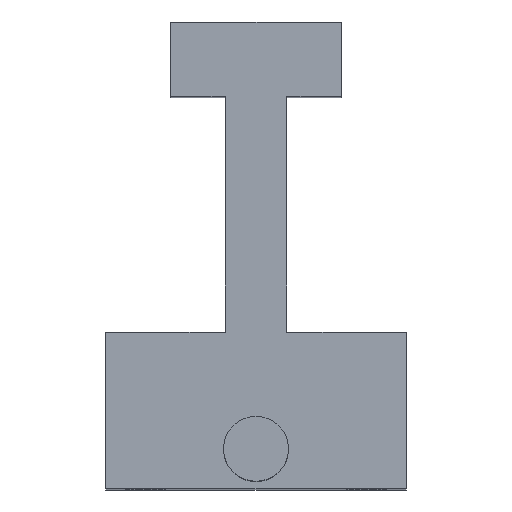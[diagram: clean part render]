
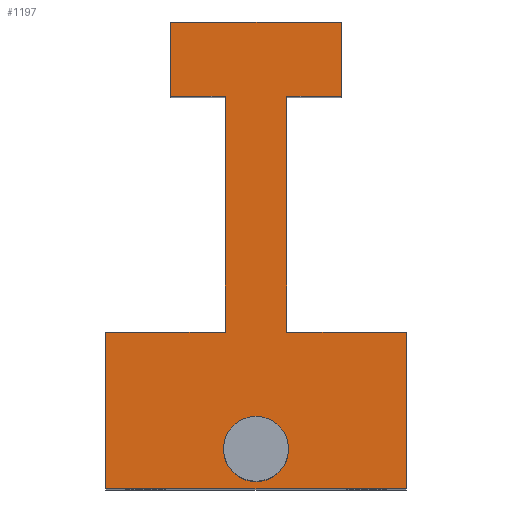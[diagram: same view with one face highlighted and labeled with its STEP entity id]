
A CAD part, top view. The second image highlights one B-rep face of the part: STEP entity #1197.
In plain terms, the highlighted planar face has unit normal (0, 0, 1).
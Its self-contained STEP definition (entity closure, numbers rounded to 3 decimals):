
#12 = VERTEX_POINT ( 'NONE', #1232 ) ;
#20 = DIRECTION ( 'NONE',  ( 1., 0., 0. ) ) ;
#42 = EDGE_CURVE ( 'NONE', #1415, #1386, #320, .T. ) ;
#45 = DIRECTION ( 'NONE',  ( -1., 0., 0. ) ) ;
#87 = LINE ( 'NONE', #692, #650 ) ;
#88 = ORIENTED_EDGE ( 'NONE', *, *, #222, .T. ) ;
#89 = CARTESIAN_POINT ( 'NONE',  ( 9.5, -14.75, 43. ) ) ;
#121 = DIRECTION ( 'NONE',  ( 0., -1., 0. ) ) ;
#143 = EDGE_CURVE ( 'NONE', #161, #227, #174, .T. ) ;
#144 = DIRECTION ( 'NONE',  ( 0., -1., 0. ) ) ;
#150 = CARTESIAN_POINT ( 'NONE',  ( 9.5, -14.75, 43. ) ) ;
#152 = LINE ( 'NONE', #906, #1346 ) ;
#155 = LINE ( 'NONE', #969, #440 ) ;
#161 = VERTEX_POINT ( 'NONE', #1341 ) ;
#163 = VERTEX_POINT ( 'NONE', #1099 ) ;
#174 = CIRCLE ( 'NONE', #1641, 2.05 ) ;
#196 = DIRECTION ( 'NONE',  ( 0., 0., -1. ) ) ;
#204 = LINE ( 'NONE', #89, #1504 ) ;
#213 = EDGE_CURVE ( 'NONE', #1445, #702, #688, .T. ) ;
#222 = EDGE_CURVE ( 'NONE', #12, #1358, #155, .T. ) ;
#227 = VERTEX_POINT ( 'NONE', #1462 ) ;
#229 = DIRECTION ( 'NONE',  ( 1., 0., 0. ) ) ;
#251 = EDGE_CURVE ( 'NONE', #227, #161, #1052, .T. ) ;
#259 = CARTESIAN_POINT ( 'NONE',  ( -1.95, 10.05, 43. ) ) ;
#282 = VECTOR ( 'NONE', #290, 1000. ) ;
#290 = DIRECTION ( 'NONE',  ( 0., 1., 0. ) ) ;
#301 = EDGE_LOOP ( 'NONE', ( #535, #1178 ) ) ;
#320 = LINE ( 'NONE', #886, #1083 ) ;
#326 = CARTESIAN_POINT ( 'NONE',  ( 1.95, -4.85, 43. ) ) ;
#340 = CARTESIAN_POINT ( 'NONE',  ( 0., -12.25, 43. ) ) ;
#344 = ORIENTED_EDGE ( 'NONE', *, *, #1433, .T. ) ;
#364 = CARTESIAN_POINT ( 'NONE',  ( -5.4, 14.75, 43. ) ) ;
#373 = DIRECTION ( 'NONE',  ( -1., 0., 0. ) ) ;
#404 = CARTESIAN_POINT ( 'NONE',  ( -5.4, 10.05, 43. ) ) ;
#440 = VECTOR ( 'NONE', #847, 1000. ) ;
#463 = DIRECTION ( 'NONE',  ( 0., 0., 1. ) ) ;
#473 = LINE ( 'NONE', #1486, #819 ) ;
#484 = CARTESIAN_POINT ( 'NONE',  ( -9.5, -4.85, 43. ) ) ;
#535 = ORIENTED_EDGE ( 'NONE', *, *, #251, .F. ) ;
#571 = PLANE ( 'NONE',  #1141 ) ;
#610 = VECTOR ( 'NONE', #20, 1000. ) ;
#617 = VECTOR ( 'NONE', #1540, 1000. ) ;
#623 = EDGE_CURVE ( 'NONE', #771, #163, #1249, .T. ) ;
#629 = FACE_BOUND ( 'NONE', #301, .T. ) ;
#646 = ORIENTED_EDGE ( 'NONE', *, *, #854, .T. ) ;
#650 = VECTOR ( 'NONE', #45, 1000. ) ;
#677 = VERTEX_POINT ( 'NONE', #150 ) ;
#688 = LINE ( 'NONE', #1410, #610 ) ;
#692 = CARTESIAN_POINT ( 'NONE',  ( -5.4, 14.75, 43. ) ) ;
#693 = ORIENTED_EDGE ( 'NONE', *, *, #1016, .T. ) ;
#695 = CARTESIAN_POINT ( 'NONE',  ( 1.95, 10.05, 43. ) ) ;
#702 = VERTEX_POINT ( 'NONE', #1280 ) ;
#715 = EDGE_CURVE ( 'NONE', #702, #866, #939, .T. ) ;
#732 = VECTOR ( 'NONE', #373, 1000. ) ;
#738 = DIRECTION ( 'NONE',  ( -1., 0., 0. ) ) ;
#771 = VERTEX_POINT ( 'NONE', #364 ) ;
#808 = EDGE_LOOP ( 'NONE', ( #1422, #1059, #1311, #693, #1065, #1090, #344, #88, #646, #1448, #1183, #1259 ) ) ;
#809 = VECTOR ( 'NONE', #1363, 1000. ) ;
#819 = VECTOR ( 'NONE', #885, 1000. ) ;
#847 = DIRECTION ( 'NONE',  ( -1., 0., 0. ) ) ;
#854 = EDGE_CURVE ( 'NONE', #1358, #1445, #1087, .T. ) ;
#866 = VERTEX_POINT ( 'NONE', #1524 ) ;
#885 = DIRECTION ( 'NONE',  ( 0., 1., 0. ) ) ;
#886 = CARTESIAN_POINT ( 'NONE',  ( -9.5, -14.75, 43. ) ) ;
#891 = CARTESIAN_POINT ( 'NONE',  ( -1.95, 10.05, 43. ) ) ;
#898 = CARTESIAN_POINT ( 'NONE',  ( -1.95, -4.85, 43. ) ) ;
#906 = CARTESIAN_POINT ( 'NONE',  ( -1.95, -4.85, 43. ) ) ;
#939 = LINE ( 'NONE', #1545, #282 ) ;
#958 = CARTESIAN_POINT ( 'NONE',  ( 0., 0., 43. ) ) ;
#969 = CARTESIAN_POINT ( 'NONE',  ( 1.95, -4.85, 43. ) ) ;
#1016 = EDGE_CURVE ( 'NONE', #1587, #1415, #1323, .T. ) ;
#1035 = CARTESIAN_POINT ( 'NONE',  ( 1.95, 10.05, 43. ) ) ;
#1052 = CIRCLE ( 'NONE', #1056, 2.05 ) ;
#1056 = AXIS2_PLACEMENT_3D ( 'NONE', #1592, #1596, #1095 ) ;
#1059 = ORIENTED_EDGE ( 'NONE', *, *, #1609, .T. ) ;
#1065 = ORIENTED_EDGE ( 'NONE', *, *, #42, .T. ) ;
#1071 = DIRECTION ( 'NONE',  ( -1., 0., 0. ) ) ;
#1075 = EDGE_CURVE ( 'NONE', #1404, #1587, #152, .T. ) ;
#1083 = VECTOR ( 'NONE', #121, 1000. ) ;
#1087 = LINE ( 'NONE', #1035, #1206 ) ;
#1090 = ORIENTED_EDGE ( 'NONE', *, *, #1297, .T. ) ;
#1095 = DIRECTION ( 'NONE',  ( -1., 0., 0. ) ) ;
#1099 = CARTESIAN_POINT ( 'NONE',  ( -5.4, 10.05, 43. ) ) ;
#1128 = CARTESIAN_POINT ( 'NONE',  ( -9.5, -4.85, 43. ) ) ;
#1141 = AXIS2_PLACEMENT_3D ( 'NONE', #958, #196, #1071 ) ;
#1178 = ORIENTED_EDGE ( 'NONE', *, *, #143, .F. ) ;
#1180 = DIRECTION ( 'NONE',  ( 0., 1., 0. ) ) ;
#1182 = EDGE_CURVE ( 'NONE', #866, #771, #87, .T. ) ;
#1183 = ORIENTED_EDGE ( 'NONE', *, *, #715, .T. ) ;
#1197 = ADVANCED_FACE ( 'NONE', ( #629, #1461 ), #571, .F. ) ;
#1206 = VECTOR ( 'NONE', #1180, 1000. ) ;
#1232 = CARTESIAN_POINT ( 'NONE',  ( 9.5, -4.85, 43. ) ) ;
#1249 = LINE ( 'NONE', #404, #617 ) ;
#1259 = ORIENTED_EDGE ( 'NONE', *, *, #1182, .T. ) ;
#1280 = CARTESIAN_POINT ( 'NONE',  ( 5.4, 10.05, 43. ) ) ;
#1297 = EDGE_CURVE ( 'NONE', #1386, #677, #204, .T. ) ;
#1311 = ORIENTED_EDGE ( 'NONE', *, *, #1075, .T. ) ;
#1323 = LINE ( 'NONE', #484, #732 ) ;
#1341 = CARTESIAN_POINT ( 'NONE',  ( 2.05, -12.25, 43. ) ) ;
#1346 = VECTOR ( 'NONE', #144, 1000. ) ;
#1358 = VERTEX_POINT ( 'NONE', #326 ) ;
#1363 = DIRECTION ( 'NONE',  ( 1., 0., 0. ) ) ;
#1386 = VERTEX_POINT ( 'NONE', #1624 ) ;
#1404 = VERTEX_POINT ( 'NONE', #891 ) ;
#1410 = CARTESIAN_POINT ( 'NONE',  ( 5.4, 10.05, 43. ) ) ;
#1415 = VERTEX_POINT ( 'NONE', #1128 ) ;
#1422 = ORIENTED_EDGE ( 'NONE', *, *, #623, .T. ) ;
#1433 = EDGE_CURVE ( 'NONE', #677, #12, #473, .T. ) ;
#1435 = LINE ( 'NONE', #259, #809 ) ;
#1445 = VERTEX_POINT ( 'NONE', #695 ) ;
#1448 = ORIENTED_EDGE ( 'NONE', *, *, #213, .T. ) ;
#1461 = FACE_OUTER_BOUND ( 'NONE', #808, .T. ) ;
#1462 = CARTESIAN_POINT ( 'NONE',  ( -2.05, -12.25, 43. ) ) ;
#1486 = CARTESIAN_POINT ( 'NONE',  ( 9.5, -4.85, 43. ) ) ;
#1504 = VECTOR ( 'NONE', #229, 1000. ) ;
#1524 = CARTESIAN_POINT ( 'NONE',  ( 5.4, 14.75, 43. ) ) ;
#1540 = DIRECTION ( 'NONE',  ( 0., -1., 0. ) ) ;
#1545 = CARTESIAN_POINT ( 'NONE',  ( 5.4, 14.75, 43. ) ) ;
#1587 = VERTEX_POINT ( 'NONE', #898 ) ;
#1592 = CARTESIAN_POINT ( 'NONE',  ( 0., -12.25, 43. ) ) ;
#1596 = DIRECTION ( 'NONE',  ( 0., 0., 1. ) ) ;
#1609 = EDGE_CURVE ( 'NONE', #163, #1404, #1435, .T. ) ;
#1624 = CARTESIAN_POINT ( 'NONE',  ( -9.5, -14.75, 43. ) ) ;
#1641 = AXIS2_PLACEMENT_3D ( 'NONE', #340, #463, #738 ) ;
